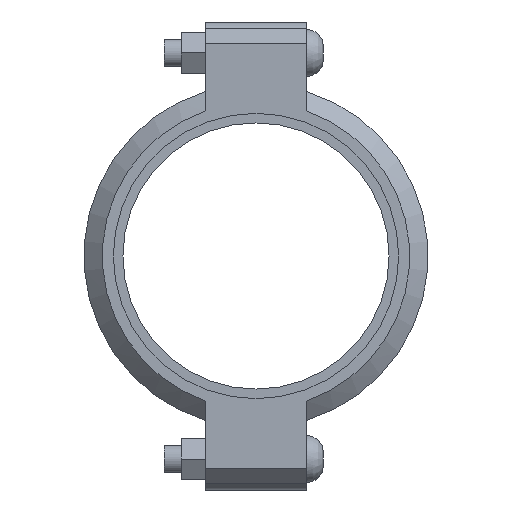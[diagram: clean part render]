
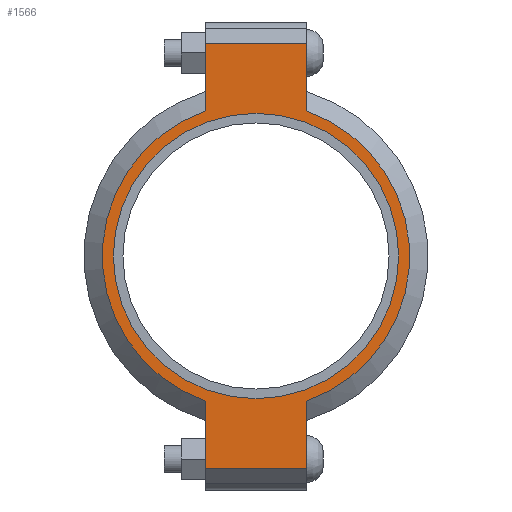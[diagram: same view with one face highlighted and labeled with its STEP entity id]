
A CAD part, left-side view. The second image highlights one B-rep face of the part: STEP entity #1566.
In plain terms, the highlighted planar face has unit normal (-1, 0, 0) as drawn and (0, 0, 1) by its records, which use the part's own axes.
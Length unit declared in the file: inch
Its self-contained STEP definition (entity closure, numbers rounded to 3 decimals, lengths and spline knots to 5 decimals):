
#190=LINE('',#2733,#283);
#198=LINE('',#2769,#291);
#205=LINE('',#2790,#298);
#214=LINE('',#2822,#307);
#215=LINE('',#2826,#308);
#216=LINE('',#2828,#309);
#283=VECTOR('',#2225,0.3937);
#291=VECTOR('',#2241,0.3937);
#298=VECTOR('',#2260,0.3937);
#307=VECTOR('',#2285,0.3937);
#308=VECTOR('',#2290,0.3937);
#309=VECTOR('',#2291,0.3937);
#365=FACE_BOUND('',#543,.T.);
#437=FACE_OUTER_BOUND('',#542,.T.);
#542=EDGE_LOOP('',(#1307,#1308,#1309,#1310,#1311,#1312,#1313,#1314));
#543=EDGE_LOOP('',(#1315));
#615=CIRCLE('',#1785,3.25);
#641=CIRCLE('',#1844,3.5);
#642=CIRCLE('',#1845,3.5);
#707=VERTEX_POINT('',#2549);
#750=VERTEX_POINT('',#2730);
#751=VERTEX_POINT('',#2732);
#762=VERTEX_POINT('',#2764);
#763=VERTEX_POINT('',#2768);
#770=VERTEX_POINT('',#2787);
#771=VERTEX_POINT('',#2789);
#781=VERTEX_POINT('',#2825);
#782=VERTEX_POINT('',#2827);
#863=EDGE_CURVE('',#707,#707,#615,.T.);
#924=EDGE_CURVE('',#751,#750,#190,.T.);
#938=EDGE_CURVE('',#763,#762,#198,.T.);
#948=EDGE_CURVE('',#771,#770,#205,.T.);
#963=EDGE_CURVE('',#763,#750,#214,.T.);
#964=EDGE_CURVE('',#762,#771,#641,.T.);
#965=EDGE_CURVE('',#781,#770,#215,.T.);
#966=EDGE_CURVE('',#781,#782,#216,.T.);
#967=EDGE_CURVE('',#782,#751,#642,.T.);
#1307=ORIENTED_EDGE('',*,*,#963,.F.);
#1308=ORIENTED_EDGE('',*,*,#938,.T.);
#1309=ORIENTED_EDGE('',*,*,#964,.T.);
#1310=ORIENTED_EDGE('',*,*,#948,.T.);
#1311=ORIENTED_EDGE('',*,*,#965,.F.);
#1312=ORIENTED_EDGE('',*,*,#966,.T.);
#1313=ORIENTED_EDGE('',*,*,#967,.T.);
#1314=ORIENTED_EDGE('',*,*,#924,.T.);
#1315=ORIENTED_EDGE('',*,*,#863,.T.);
#1408=PLANE('',#1843);
#1566=ADVANCED_FACE('',(#437,#365),#1408,.T.);
#1785=AXIS2_PLACEMENT_3D('',#2551,#2101,#2102);
#1843=AXIS2_PLACEMENT_3D('',#2823,#2286,#2287);
#1844=AXIS2_PLACEMENT_3D('',#2824,#2288,#2289);
#1845=AXIS2_PLACEMENT_3D('',#2829,#2292,#2293);
#2101=DIRECTION('center_axis',(0.,0.,-1.));
#2102=DIRECTION('ref_axis',(-1.,0.,0.));
#2225=DIRECTION('',(-1.,0.,0.));
#2241=DIRECTION('',(1.,0.,0.));
#2260=DIRECTION('',(1.,0.,0.));
#2285=DIRECTION('',(0.,1.,0.));
#2286=DIRECTION('center_axis',(0.,0.,1.));
#2287=DIRECTION('ref_axis',(1.,0.,0.));
#2288=DIRECTION('center_axis',(0.,0.,1.));
#2289=DIRECTION('ref_axis',(-1.,0.,0.));
#2290=DIRECTION('',(0.,-1.,0.));
#2291=DIRECTION('',(-1.,0.,0.));
#2292=DIRECTION('center_axis',(0.,0.,1.));
#2293=DIRECTION('ref_axis',(-1.,0.,0.));
#2549=CARTESIAN_POINT('',(3.25,0.,1.04));
#2551=CARTESIAN_POINT('Origin',(0.,0.,1.04));
#2730=CARTESIAN_POINT('',(-4.83,1.156,1.04));
#2732=CARTESIAN_POINT('',(-3.30358,1.156,1.04));
#2733=CARTESIAN_POINT('',(-5.33,1.156,1.04));
#2764=CARTESIAN_POINT('',(-3.30358,-1.156,1.04));
#2768=CARTESIAN_POINT('',(-4.83,-1.156,1.04));
#2769=CARTESIAN_POINT('',(5.33,-1.156,1.04));
#2787=CARTESIAN_POINT('',(4.83,-1.156,1.04));
#2789=CARTESIAN_POINT('',(3.30358,-1.156,1.04));
#2790=CARTESIAN_POINT('',(5.33,-1.156,1.04));
#2822=CARTESIAN_POINT('',(-4.83,0.578,1.04));
#2823=CARTESIAN_POINT('Origin',(0.,0.,1.04));
#2824=CARTESIAN_POINT('Origin',(0.,0.,1.04));
#2825=CARTESIAN_POINT('',(4.83,1.156,1.04));
#2826=CARTESIAN_POINT('',(4.83,-0.578,1.04));
#2827=CARTESIAN_POINT('',(3.30358,1.156,1.04));
#2828=CARTESIAN_POINT('',(-5.33,1.156,1.04));
#2829=CARTESIAN_POINT('Origin',(0.,0.,1.04));
